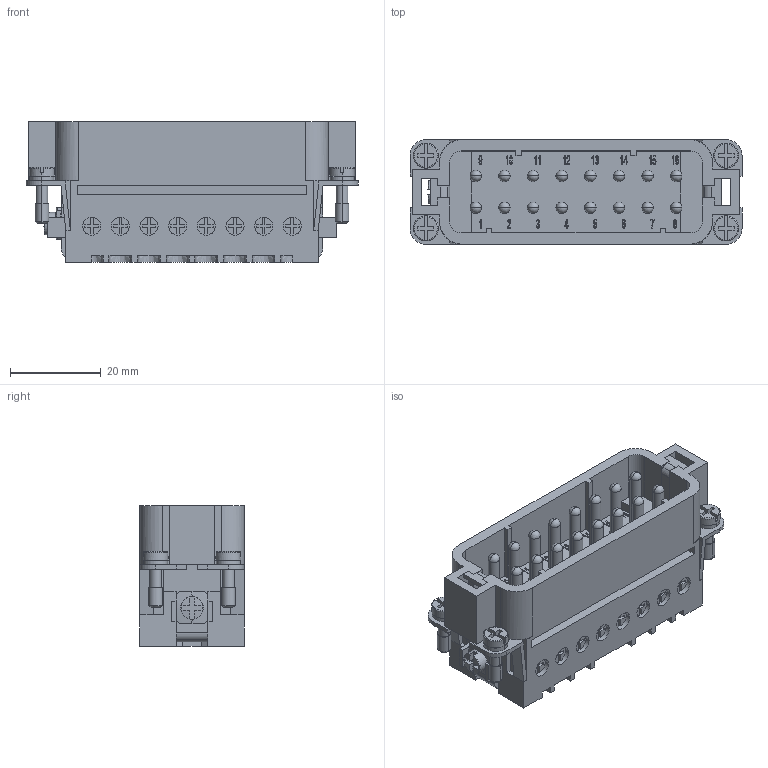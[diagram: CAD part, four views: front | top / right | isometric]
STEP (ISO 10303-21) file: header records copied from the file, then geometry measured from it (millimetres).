
FILE_DESCRIPTION((''),'2;1');
FILE_NAME('B:\MITARBEITER\Gembarski\Inventor\TEMP\Einsätze\IPT\STP\CDAM 16.stp','2006-11-09T10:05:33',('gembarski'),(''),'Autodesk Inventor 7','Autodesk Inventor 7','');
FILE_SCHEMA(('AUTOMOTIVE_DESIGN { 1 0 10303 214 1 1 1 1 }'));
Length unit declared in the file: millimetre
Products named in the file (1): CDAM 16
Bounding box: 73 x 23 x 31 mm (x, y, z)
Volume: 27326.3 mm3; surface area: 20890.9 mm2
Topology: 17 solids, 17 shells, 1721 faces, 4668 edges, 3047 vertices
Faces by surface type: plane 759, bspline 742, cylinder 172, sphere 36, torus 8, cone 4
Entity records: 56976 total; most frequent: CARTESIAN_POINT 16409, ORIENTED_EDGE 9280, DIRECTION 6825, EDGE_CURVE 4640, VECTOR 3151, LINE 3151, VERTEX_POINT 3047, EDGE_LOOP 1873
